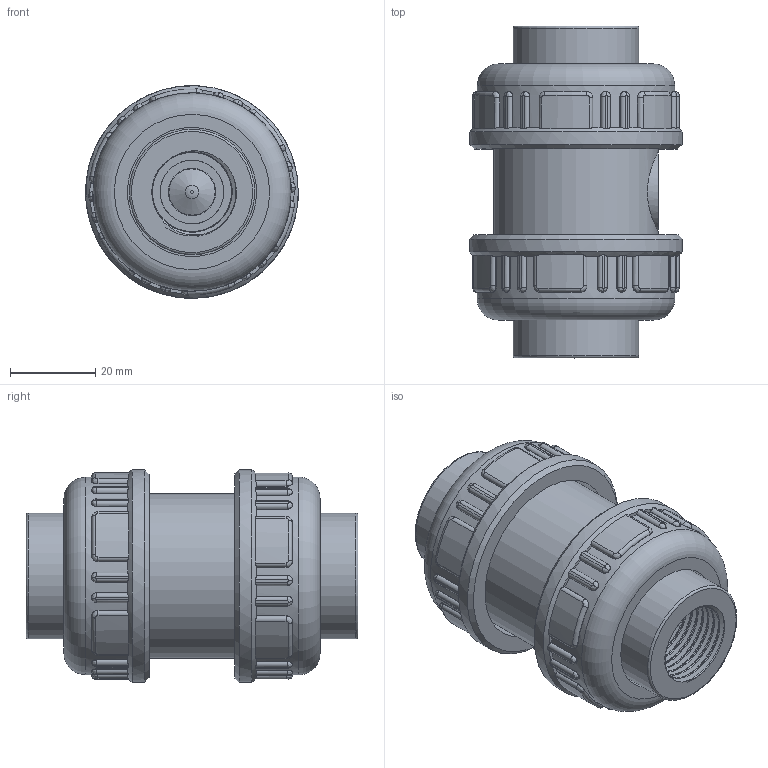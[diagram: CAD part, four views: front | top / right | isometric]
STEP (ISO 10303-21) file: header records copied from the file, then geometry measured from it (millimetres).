
FILE_DESCRIPTION(/* description */ (''),/* implementation_level */ '2;1');
FILE_NAME(/* name */ 'C:\Users\POLYPIPE\Desktop\DATASET INVENTOR\LIBRERIA EFFAST\3D_VALVOLE\3D_VALVOLE NON RITORNO\3D_CV\3D_CERCVE\3D_CERCVE020B.stp',/* time_stamp */ '2018-01-24T16:55:07+01:00',/* author */ ('POLYPIPE'),/* organization */ (''),/* preprocessor_version */ 'ST-DEVELOPER v16.1',/* originating_system */ 'Autodesk Inventor 2016',/* authorisation */ '');
FILE_SCHEMA (('CONFIG_CONTROL_DESIGN'));
Length unit declared in the file: centimetre
Products named in the file (1): 3D_CERCVE020B
Bounding box: 50 x 78 x 50 mm (x, y, z)
Volume: 72621.9 mm3; surface area: 38525 mm2
Topology: 2 solids, 4 shells, 560 faces, 1478 edges, 936 vertices
Faces by surface type: plane 206, bspline 156, cylinder 148, torus 40, cone 10
Full cylindrical faces by diameter (mm): 15 x2, 15.6 x1, 18.1 x2, 18.6 x1, 18.631 x2, 20.8 x1, 23.6 x1, 25.6 x1, 26.1 x1, 29.5 x3, 30.2 x1, 30.4 x2, 30.5 x1, 31 x1, 31.3 x1, 35.5 x2, 38.6 x1, 40.4 x2, 46.5 x2, 50 x2
Entity records: 68007 total; most frequent: CARTESIAN_POINT 54770, ORIENTED_EDGE 2798, DIRECTION 2301, EDGE_CURVE 1399, VERTEX_POINT 918, AXIS2_PLACEMENT_3D 876, EDGE_LOOP 651, STYLED_ITEM 562
